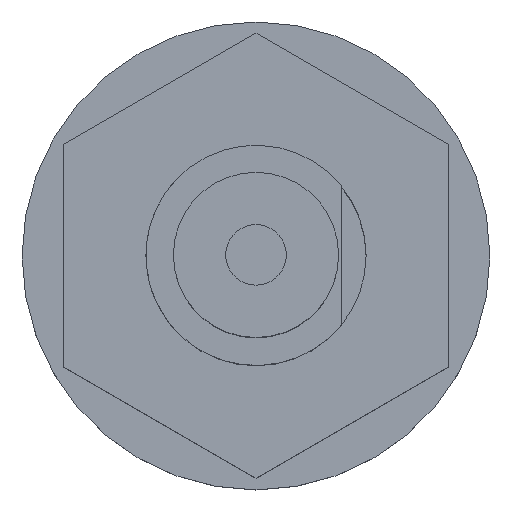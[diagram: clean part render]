
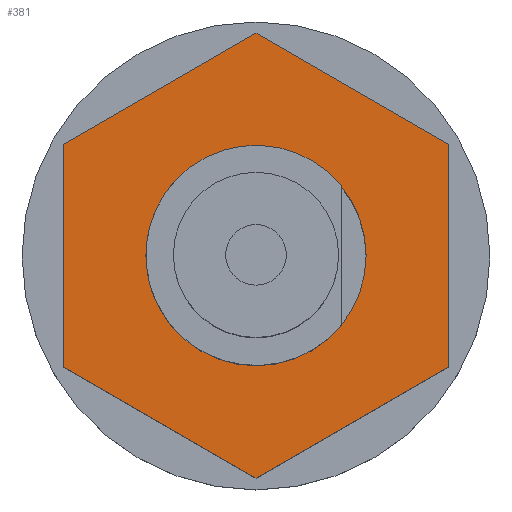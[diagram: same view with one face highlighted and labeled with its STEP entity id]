
A CAD part, top view. The second image highlights one B-rep face of the part: STEP entity #381.
In plain terms, the highlighted planar face has unit normal (0, 0, 1) as drawn and (-1, 0, 0) by its records, which use the part's own axes.
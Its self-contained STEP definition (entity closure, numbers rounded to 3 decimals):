
#381 = ADVANCED_FACE ( 'NONE', ( #1190, #1189 ), #1188, .T. ) ;
#382 = EDGE_LOOP ( 'NONE', ( #383, #438, #440, #443, #446, #449 ) ) ;
#383 = ORIENTED_EDGE ( 'NONE', *, *, #384, .T. ) ;
#384 = EDGE_CURVE ( 'NONE', #385, #386, #1183, .T. ) ;
#385 = VERTEX_POINT ( 'NONE', #1179 ) ;
#386 = VERTEX_POINT ( 'NONE', #1178 ) ;
#387 = VERTEX_POINT ( 'NONE', #1177 ) ;
#401 = EDGE_CURVE ( 'NONE', #402, #403, #1228, .T. ) ;
#402 = VERTEX_POINT ( 'NONE', #1224 ) ;
#403 = VERTEX_POINT ( 'NONE', #1223 ) ;
#423 = ORIENTED_EDGE ( 'NONE', *, *, #424, .F. ) ;
#424 = EDGE_CURVE ( 'NONE', #403, #402, #1258, .T. ) ;
#438 = ORIENTED_EDGE ( 'NONE', *, *, #439, .T. ) ;
#439 = EDGE_CURVE ( 'NONE', #386, #387, #1293, .T. ) ;
#440 = ORIENTED_EDGE ( 'NONE', *, *, #441, .T. ) ;
#441 = EDGE_CURVE ( 'NONE', #387, #442, #1289, .T. ) ;
#442 = VERTEX_POINT ( 'NONE', #1285 ) ;
#443 = ORIENTED_EDGE ( 'NONE', *, *, #444, .T. ) ;
#444 = EDGE_CURVE ( 'NONE', #442, #445, #1284, .T. ) ;
#445 = VERTEX_POINT ( 'NONE', #1280 ) ;
#446 = ORIENTED_EDGE ( 'NONE', *, *, #447, .T. ) ;
#447 = EDGE_CURVE ( 'NONE', #445, #448, #1279, .T. ) ;
#448 = VERTEX_POINT ( 'NONE', #1275 ) ;
#449 = ORIENTED_EDGE ( 'NONE', *, *, #450, .T. ) ;
#450 = EDGE_CURVE ( 'NONE', #448, #385, #1340, .T. ) ;
#451 = EDGE_LOOP ( 'NONE', ( #452, #423 ) ) ;
#452 = ORIENTED_EDGE ( 'NONE', *, *, #401, .F. ) ;
#1177 = CARTESIAN_POINT ( 'NONE',  ( 8., 2.021, -3.5 ) ) ;
#1178 = CARTESIAN_POINT ( 'NONE',  ( 8., 4.041, 0. ) ) ;
#1179 = CARTESIAN_POINT ( 'NONE',  ( 8., 2.021, 3.5 ) ) ;
#1180 = DIRECTION ( 'NONE',  ( 0., 0.5, -0.866 ) ) ;
#1181 = VECTOR ( 'NONE', #1180, 1000. ) ;
#1182 = CARTESIAN_POINT ( 'NONE',  ( 8., 2.021, 3.5 ) ) ;
#1183 = LINE ( 'NONE', #1182, #1181 ) ;
#1184 = DIRECTION ( 'NONE',  ( 0., -1., 0. ) ) ;
#1185 = DIRECTION ( 'NONE',  ( -1., 0., 0. ) ) ;
#1186 = CARTESIAN_POINT ( 'NONE',  ( 8., 4.041, 0. ) ) ;
#1187 = AXIS2_PLACEMENT_3D ( 'NONE', #1186, #1185, #1184 ) ;
#1188 = PLANE ( 'NONE',  #1187 ) ;
#1189 = FACE_BOUND ( 'NONE', #451, .T. ) ;
#1190 = FACE_OUTER_BOUND ( 'NONE', #382, .T. ) ;
#1223 = CARTESIAN_POINT ( 'NONE',  ( 8., -2., 0. ) ) ;
#1224 = CARTESIAN_POINT ( 'NONE',  ( 8., 2., 0. ) ) ;
#1225 = DIRECTION ( 'NONE',  ( 0., -1., 0. ) ) ;
#1226 = DIRECTION ( 'NONE',  ( -1., 0., 0. ) ) ;
#1227 = AXIS2_PLACEMENT_3D ( 'NONE', #1233, #1226, #1225 ) ;
#1228 = CIRCLE ( 'NONE', #1227, 2. ) ;
#1233 = CARTESIAN_POINT ( 'NONE',  ( 8., 0., 0. ) ) ;
#1254 = DIRECTION ( 'NONE',  ( 0., -1., 0. ) ) ;
#1255 = DIRECTION ( 'NONE',  ( -1., 0., 0. ) ) ;
#1256 = CARTESIAN_POINT ( 'NONE',  ( 8., 0., 0. ) ) ;
#1257 = AXIS2_PLACEMENT_3D ( 'NONE', #1256, #1255, #1254 ) ;
#1258 = CIRCLE ( 'NONE', #1257, 2. ) ;
#1275 = CARTESIAN_POINT ( 'NONE',  ( 8., -2.021, 3.5 ) ) ;
#1276 = DIRECTION ( 'NONE',  ( 0., 0.5, 0.866 ) ) ;
#1277 = VECTOR ( 'NONE', #1276, 1000. ) ;
#1278 = CARTESIAN_POINT ( 'NONE',  ( 8., -4.041, 0. ) ) ;
#1279 = LINE ( 'NONE', #1278, #1277 ) ;
#1280 = CARTESIAN_POINT ( 'NONE',  ( 8., -4.041, 0. ) ) ;
#1281 = DIRECTION ( 'NONE',  ( 0., -0.5, 0.866 ) ) ;
#1282 = VECTOR ( 'NONE', #1281, 1000. ) ;
#1283 = CARTESIAN_POINT ( 'NONE',  ( 8., -2.021, -3.5 ) ) ;
#1284 = LINE ( 'NONE', #1283, #1282 ) ;
#1285 = CARTESIAN_POINT ( 'NONE',  ( 8., -2.021, -3.5 ) ) ;
#1286 = DIRECTION ( 'NONE',  ( 0., -1., 0. ) ) ;
#1287 = VECTOR ( 'NONE', #1286, 1000. ) ;
#1288 = CARTESIAN_POINT ( 'NONE',  ( 8., 2.021, -3.5 ) ) ;
#1289 = LINE ( 'NONE', #1288, #1287 ) ;
#1290 = DIRECTION ( 'NONE',  ( 0., -0.5, -0.866 ) ) ;
#1291 = VECTOR ( 'NONE', #1290, 1000. ) ;
#1292 = CARTESIAN_POINT ( 'NONE',  ( 8., 4.041, 0. ) ) ;
#1293 = LINE ( 'NONE', #1292, #1291 ) ;
#1337 = DIRECTION ( 'NONE',  ( 0., 1., 0. ) ) ;
#1338 = VECTOR ( 'NONE', #1337, 1000. ) ;
#1339 = CARTESIAN_POINT ( 'NONE',  ( 8., -2.021, 3.5 ) ) ;
#1340 = LINE ( 'NONE', #1339, #1338 ) ;
